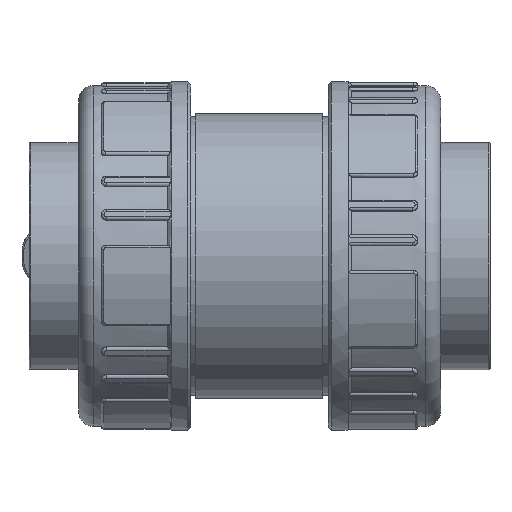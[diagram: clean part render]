
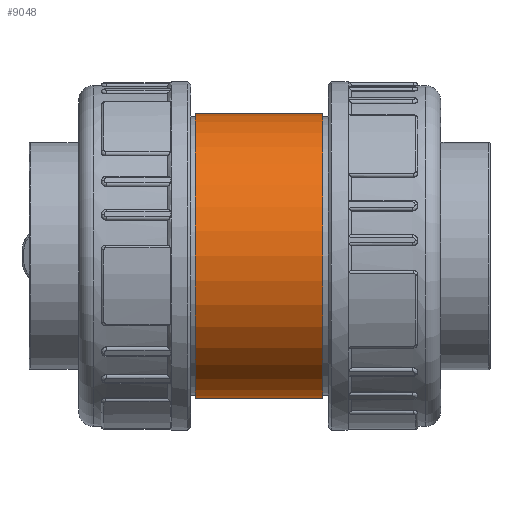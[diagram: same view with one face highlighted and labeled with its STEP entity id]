
A CAD part, left-side view. The second image highlights one B-rep face of the part: STEP entity #9048.
In plain terms, the highlighted cylindrical face has radius 47 mm (diameter 94 mm), a full revolution.
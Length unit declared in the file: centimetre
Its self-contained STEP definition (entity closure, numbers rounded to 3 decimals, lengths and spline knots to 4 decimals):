
#1368=B_SPLINE_CURVE_WITH_KNOTS('',3,(#40117,#40118,#40119,#40120,#40121,
#40122,#40123,#40124,#40125,#40126,#40127,#40128,#40129,#40130,#40131,#40132,
#40133,#40134,#40135,#40136,#40137,#40138,#40139,#40140,#40141,#40142,#40143,
#40144,#40145,#40146,#40147,#40148,#40149,#40150,#40151,#40152,#40153,#40154,
#40155,#40156,#40157,#40158,#40159,#40160,#40161,#40162,#40163,#40164,#40165,
#40166,#40167,#40168,#40169,#40170,#40171,#40172,#40173,#40174,#40175,#40176,
#40177,#40178,#40179,#40180,#40181,#40182),.UNSPECIFIED.,.T.,.F.,(4,2,2,
2,2,2,2,2,2,2,2,2,2,2,2,2,2,2,2,2,2,2,2,2,2,2,2,2,2,2,2,2,4),(0.,0.3557,
0.7114,1.0672,1.4229,1.7783,2.1336,
2.489,2.8444,3.1998,3.5551,3.9105,
4.2659,4.6216,4.9773,5.333,5.6888,
6.0445,6.4002,6.7559,7.1116,7.467,
7.8224,8.1778,8.5331,8.8885,9.2439,
9.5993,9.9546,10.3103,10.6661,11.0218,
11.3775),.UNSPECIFIED.);
#1635=CYLINDRICAL_SURFACE('',#9719,4.7);
#1773=FACE_BOUND('',#2607,.T.);
#1774=FACE_BOUND('',#2608,.T.);
#2047=FACE_OUTER_BOUND('',#2606,.T.);
#2606=EDGE_LOOP('',(#6706));
#2607=EDGE_LOOP('',(#6707));
#2608=EDGE_LOOP('',(#6708));
#3125=CIRCLE('',#9716,4.7);
#3126=CIRCLE('',#9718,4.7);
#3738=VERTEX_POINT('',#40110);
#3739=VERTEX_POINT('',#40113);
#3740=VERTEX_POINT('',#40116);
#4791=EDGE_CURVE('',#3738,#3738,#3125,.T.);
#4792=EDGE_CURVE('',#3739,#3739,#3126,.T.);
#4793=EDGE_CURVE('',#3740,#3740,#1368,.T.);
#6706=ORIENTED_EDGE('',*,*,#4791,.F.);
#6707=ORIENTED_EDGE('',*,*,#4793,.T.);
#6708=ORIENTED_EDGE('',*,*,#4792,.T.);
#9048=ADVANCED_FACE('',(#2047,#1773,#1774),#1635,.T.);
#9716=AXIS2_PLACEMENT_3D('',#40111,#11160,#11161);
#9718=AXIS2_PLACEMENT_3D('',#40114,#11164,#11165);
#9719=AXIS2_PLACEMENT_3D('',#40115,#11166,#11167);
#11160=DIRECTION('center_axis',(0.,-1.,0.));
#11161=DIRECTION('ref_axis',(1.,0.,0.));
#11164=DIRECTION('center_axis',(0.,-1.,0.));
#11165=DIRECTION('ref_axis',(1.,0.,0.));
#11166=DIRECTION('center_axis',(0.,-1.,0.));
#11167=DIRECTION('ref_axis',(-1.,0.,0.));
#40110=CARTESIAN_POINT('',(-4.7,-2.09,0.));
#40111=CARTESIAN_POINT('Origin',(0.,-2.09,0.));
#40113=CARTESIAN_POINT('',(-4.7,2.12,0.));
#40114=CARTESIAN_POINT('Origin',(0.,2.12,0.));
#40115=CARTESIAN_POINT('Origin',(0.,0.015,
0.));
#40116=CARTESIAN_POINT('',(4.3141,0.,-1.865));
#40117=CARTESIAN_POINT('Ctrl Pts',(4.3141,0.,-1.865));
#40118=CARTESIAN_POINT('Ctrl Pts',(4.3141,-0.1186,
-1.865));
#40119=CARTESIAN_POINT('Ctrl Pts',(4.3192,-0.2407,
-1.8535));
#40120=CARTESIAN_POINT('Ctrl Pts',(4.3394,-0.4828,
-1.8057));
#40121=CARTESIAN_POINT('Ctrl Pts',(4.3546,-0.6027,
-1.7693));
#40122=CARTESIAN_POINT('Ctrl Pts',(4.3922,-0.832,
-1.6738));
#40123=CARTESIAN_POINT('Ctrl Pts',(4.4146,-0.9415,
-1.6145));
#40124=CARTESIAN_POINT('Ctrl Pts',(4.4621,-1.1439,-1.4781));
#40125=CARTESIAN_POINT('Ctrl Pts',(4.4872,-1.2366,-1.4009));
#40126=CARTESIAN_POINT('Ctrl Pts',(4.5352,-1.4008,-1.2367));
#40127=CARTESIAN_POINT('Ctrl Pts',(4.5598,-1.478,-1.144));
#40128=CARTESIAN_POINT('Ctrl Pts',(4.6059,-1.6145,-0.9416));
#40129=CARTESIAN_POINT('Ctrl Pts',(4.6272,-1.6738,-0.832));
#40130=CARTESIAN_POINT('Ctrl Pts',(4.6627,-1.7693,-0.6026));
#40131=CARTESIAN_POINT('Ctrl Pts',(4.6767,-1.8057,-0.4826));
#40132=CARTESIAN_POINT('Ctrl Pts',(4.6954,-1.8535,-0.2406));
#40133=CARTESIAN_POINT('Ctrl Pts',(4.7,-1.865,-0.1185));
#40134=CARTESIAN_POINT('Ctrl Pts',(4.7,-1.865,0.1185));
#40135=CARTESIAN_POINT('Ctrl Pts',(4.6954,-1.8535,0.2406));
#40136=CARTESIAN_POINT('Ctrl Pts',(4.6767,-1.8057,0.4826));
#40137=CARTESIAN_POINT('Ctrl Pts',(4.6627,-1.7693,0.6026));
#40138=CARTESIAN_POINT('Ctrl Pts',(4.6272,-1.6738,0.832));
#40139=CARTESIAN_POINT('Ctrl Pts',(4.6059,-1.6145,0.9416));
#40140=CARTESIAN_POINT('Ctrl Pts',(4.5598,-1.478,1.144));
#40141=CARTESIAN_POINT('Ctrl Pts',(4.5352,-1.4008,1.2367));
#40142=CARTESIAN_POINT('Ctrl Pts',(4.4872,-1.2366,1.4009));
#40143=CARTESIAN_POINT('Ctrl Pts',(4.4621,-1.1439,1.4781));
#40144=CARTESIAN_POINT('Ctrl Pts',(4.4146,-0.9415,
1.6145));
#40145=CARTESIAN_POINT('Ctrl Pts',(4.3922,-0.832,
1.6738));
#40146=CARTESIAN_POINT('Ctrl Pts',(4.3546,-0.6027,
1.7693));
#40147=CARTESIAN_POINT('Ctrl Pts',(4.3394,-0.4828,
1.8057));
#40148=CARTESIAN_POINT('Ctrl Pts',(4.3192,-0.2407,
1.8535));
#40149=CARTESIAN_POINT('Ctrl Pts',(4.3141,-0.1186,
1.865));
#40150=CARTESIAN_POINT('Ctrl Pts',(4.3141,0.1186,1.865));
#40151=CARTESIAN_POINT('Ctrl Pts',(4.3192,0.2407,1.8535));
#40152=CARTESIAN_POINT('Ctrl Pts',(4.3394,0.4828,1.8057));
#40153=CARTESIAN_POINT('Ctrl Pts',(4.3546,0.6027,1.7693));
#40154=CARTESIAN_POINT('Ctrl Pts',(4.3922,0.832,1.6738));
#40155=CARTESIAN_POINT('Ctrl Pts',(4.4146,0.9415,1.6145));
#40156=CARTESIAN_POINT('Ctrl Pts',(4.4621,1.1439,1.4781));
#40157=CARTESIAN_POINT('Ctrl Pts',(4.4872,1.2366,1.4009));
#40158=CARTESIAN_POINT('Ctrl Pts',(4.5352,1.4008,1.2367));
#40159=CARTESIAN_POINT('Ctrl Pts',(4.5598,1.478,1.144));
#40160=CARTESIAN_POINT('Ctrl Pts',(4.6059,1.6145,0.9416));
#40161=CARTESIAN_POINT('Ctrl Pts',(4.6272,1.6738,0.832));
#40162=CARTESIAN_POINT('Ctrl Pts',(4.6627,1.7693,0.6026));
#40163=CARTESIAN_POINT('Ctrl Pts',(4.6767,1.8057,0.4826));
#40164=CARTESIAN_POINT('Ctrl Pts',(4.6954,1.8535,0.2406));
#40165=CARTESIAN_POINT('Ctrl Pts',(4.7,1.865,0.1185));
#40166=CARTESIAN_POINT('Ctrl Pts',(4.7,1.865,-0.1185));
#40167=CARTESIAN_POINT('Ctrl Pts',(4.6954,1.8535,-0.2406));
#40168=CARTESIAN_POINT('Ctrl Pts',(4.6767,1.8057,-0.4826));
#40169=CARTESIAN_POINT('Ctrl Pts',(4.6627,1.7693,-0.6026));
#40170=CARTESIAN_POINT('Ctrl Pts',(4.6272,1.6738,-0.832));
#40171=CARTESIAN_POINT('Ctrl Pts',(4.6059,1.6145,-0.9416));
#40172=CARTESIAN_POINT('Ctrl Pts',(4.5598,1.478,-1.144));
#40173=CARTESIAN_POINT('Ctrl Pts',(4.5352,1.4008,-1.2367));
#40174=CARTESIAN_POINT('Ctrl Pts',(4.4872,1.2366,-1.4009));
#40175=CARTESIAN_POINT('Ctrl Pts',(4.4621,1.1439,-1.4781));
#40176=CARTESIAN_POINT('Ctrl Pts',(4.4146,0.9415,-1.6145));
#40177=CARTESIAN_POINT('Ctrl Pts',(4.3922,0.832,-1.6738));
#40178=CARTESIAN_POINT('Ctrl Pts',(4.3546,0.6027,-1.7693));
#40179=CARTESIAN_POINT('Ctrl Pts',(4.3394,0.4828,-1.8057));
#40180=CARTESIAN_POINT('Ctrl Pts',(4.3192,0.2407,-1.8535));
#40181=CARTESIAN_POINT('Ctrl Pts',(4.3141,0.1186,-1.865));
#40182=CARTESIAN_POINT('Ctrl Pts',(4.3141,0.,
-1.865));
